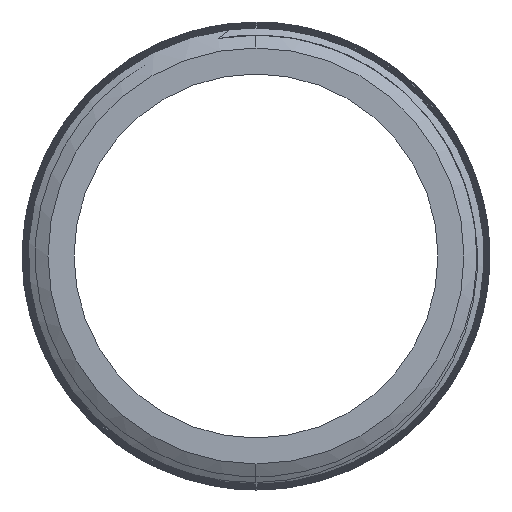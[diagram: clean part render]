
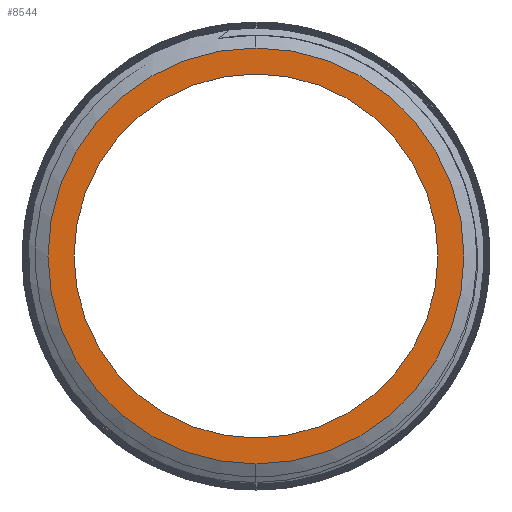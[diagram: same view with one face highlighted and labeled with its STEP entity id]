
A CAD part, left-side view. The second image highlights one B-rep face of the part: STEP entity #8544.
In plain terms, the highlighted planar face has unit normal (-1, 0, 0).
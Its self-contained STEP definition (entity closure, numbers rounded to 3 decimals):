
#71 = DIRECTION ( 'NONE',  ( -1., 0., 0. ) ) ;
#109 = CARTESIAN_POINT ( 'NONE',  ( -60., 0., -5.25 ) ) ;
#245 = CARTESIAN_POINT ( 'NONE',  ( -60., 0., -6. ) ) ;
#592 = ORIENTED_EDGE ( 'NONE', *, *, #6084, .F. ) ;
#661 = VERTEX_POINT ( 'NONE', #109 ) ;
#727 = ORIENTED_EDGE ( 'NONE', *, *, #9895, .T. ) ;
#842 = VERTEX_POINT ( 'NONE', #245 ) ;
#852 = FACE_BOUND ( 'NONE', #3961, .T. ) ;
#1015 = DIRECTION ( 'NONE',  ( 1., 0., 0. ) ) ;
#1148 = VERTEX_POINT ( 'NONE', #2706 ) ;
#1357 = CARTESIAN_POINT ( 'NONE',  ( -60., 0., 0. ) ) ;
#1448 = CIRCLE ( 'NONE', #8658, 6. ) ;
#1728 = DIRECTION ( 'NONE',  ( 0., 0., -1. ) ) ;
#1784 = FACE_OUTER_BOUND ( 'NONE', #6514, .T. ) ;
#2516 = AXIS2_PLACEMENT_3D ( 'NONE', #1357, #4717, #7249 ) ;
#2706 = CARTESIAN_POINT ( 'NONE',  ( -60., 0., 5.25 ) ) ;
#3059 = DIRECTION ( 'NONE',  ( -1., 0., 0. ) ) ;
#3114 = CARTESIAN_POINT ( 'NONE',  ( -60., 0., 6. ) ) ;
#3424 = DIRECTION ( 'NONE',  ( 0., 0., 1. ) ) ;
#3961 = EDGE_LOOP ( 'NONE', ( #4755, #592 ) ) ;
#4199 = EDGE_CURVE ( 'NONE', #4951, #842, #1448, .T. ) ;
#4282 = AXIS2_PLACEMENT_3D ( 'NONE', #9245, #8258, #6773 ) ;
#4310 = ORIENTED_EDGE ( 'NONE', *, *, #4199, .T. ) ;
#4345 = AXIS2_PLACEMENT_3D ( 'NONE', #6798, #1015, #1728 ) ;
#4717 = DIRECTION ( 'NONE',  ( -1., 0., 0. ) ) ;
#4737 = AXIS2_PLACEMENT_3D ( 'NONE', #7485, #71, #3424 ) ;
#4755 = ORIENTED_EDGE ( 'NONE', *, *, #7633, .F. ) ;
#4951 = VERTEX_POINT ( 'NONE', #3114 ) ;
#5854 = CIRCLE ( 'NONE', #2516, 5.25 ) ;
#6084 = EDGE_CURVE ( 'NONE', #661, #1148, #5854, .T. ) ;
#6514 = EDGE_LOOP ( 'NONE', ( #727, #4310 ) ) ;
#6773 = DIRECTION ( 'NONE',  ( 0., 0., 1. ) ) ;
#6798 = CARTESIAN_POINT ( 'NONE',  ( -60., 5.25, 0. ) ) ;
#7249 = DIRECTION ( 'NONE',  ( 0., 0., 1. ) ) ;
#7485 = CARTESIAN_POINT ( 'NONE',  ( -60., 0., 0. ) ) ;
#7633 = EDGE_CURVE ( 'NONE', #1148, #661, #8606, .T. ) ;
#8181 = DIRECTION ( 'NONE',  ( 0., 0., 1. ) ) ;
#8258 = DIRECTION ( 'NONE',  ( -1., 0., 0. ) ) ;
#8544 = ADVANCED_FACE ( 'NONE', ( #852, #1784 ), #9326, .F. ) ;
#8606 = CIRCLE ( 'NONE', #4737, 5.25 ) ;
#8658 = AXIS2_PLACEMENT_3D ( 'NONE', #10697, #3059, #8181 ) ;
#8739 = CIRCLE ( 'NONE', #4282, 6. ) ;
#9245 = CARTESIAN_POINT ( 'NONE',  ( -60., 0., 0. ) ) ;
#9326 = PLANE ( 'NONE',  #4345 ) ;
#9895 = EDGE_CURVE ( 'NONE', #842, #4951, #8739, .T. ) ;
#10697 = CARTESIAN_POINT ( 'NONE',  ( -60., 0., 0. ) ) ;
